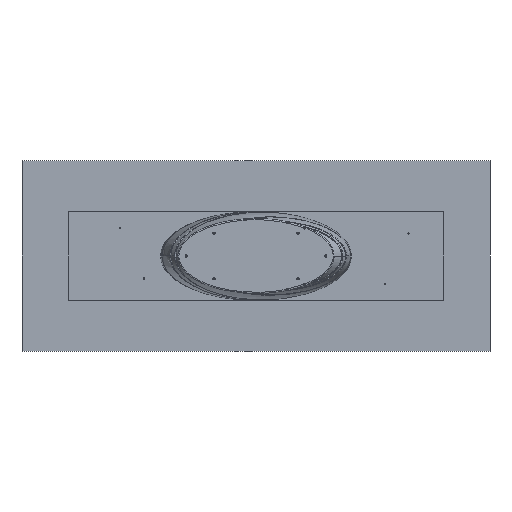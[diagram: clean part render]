
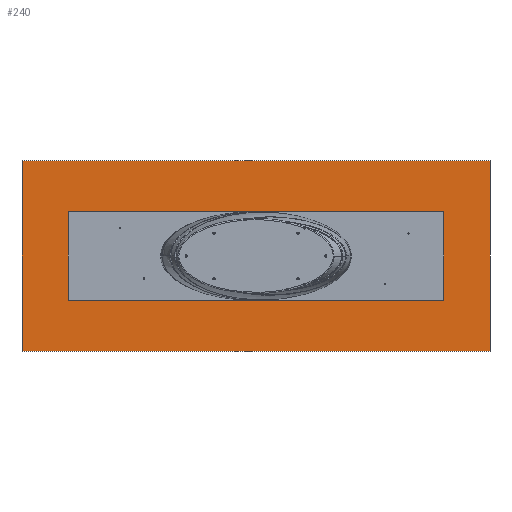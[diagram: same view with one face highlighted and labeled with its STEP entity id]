
A CAD part, front view. The second image highlights one B-rep face of the part: STEP entity #240.
In plain terms, the highlighted planar face has unit normal (0, -1, 0).
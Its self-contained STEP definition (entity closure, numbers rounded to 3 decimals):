
#20 = LINE ( 'NONE', #22800, #10547 ) ;
#240 = ADVANCED_FACE ( 'NONE', ( #11118 ), #27411, .T. ) ;
#718 = EDGE_CURVE ( 'NONE', #28410, #6307, #20, .T. ) ;
#1633 = VERTEX_POINT ( 'NONE', #35571 ) ;
#2216 = EDGE_CURVE ( 'NONE', #6307, #24463, #5397, .T. ) ;
#3402 = DIRECTION ( 'NONE',  ( 0., 0., 1. ) ) ;
#3589 = LINE ( 'NONE', #35166, #20632 ) ;
#3954 = EDGE_CURVE ( 'NONE', #1633, #28410, #3589, .T. ) ;
#4421 = CARTESIAN_POINT ( 'NONE',  ( 1475., 50., -600. ) ) ;
#5397 = LINE ( 'NONE', #36793, #24947 ) ;
#6307 = VERTEX_POINT ( 'NONE', #4421 ) ;
#6929 = DIRECTION ( 'NONE',  ( 0., 0., -1. ) ) ;
#9557 = DIRECTION ( 'NONE',  ( 1., 0., 0. ) ) ;
#9758 = EDGE_CURVE ( 'NONE', #24463, #1633, #23192, .T. ) ;
#10547 = VECTOR ( 'NONE', #6929, 1000. ) ;
#10750 = DIRECTION ( 'NONE',  ( 0., -1., 0. ) ) ;
#11118 = FACE_OUTER_BOUND ( 'NONE', #30878, .T. ) ;
#13319 = ORIENTED_EDGE ( 'NONE', *, *, #2216, .F. ) ;
#13552 = DIRECTION ( 'NONE',  ( 0., 0., -1. ) ) ;
#13622 = DIRECTION ( 'NONE',  ( -1., 0., 0. ) ) ;
#14082 = CARTESIAN_POINT ( 'NONE',  ( -1475., 50., -600. ) ) ;
#14218 = VECTOR ( 'NONE', #3402, 1000. ) ;
#15134 = ORIENTED_EDGE ( 'NONE', *, *, #718, .F. ) ;
#20632 = VECTOR ( 'NONE', #9557, 1000. ) ;
#21016 = CARTESIAN_POINT ( 'NONE',  ( 1475., 50., 600. ) ) ;
#22800 = CARTESIAN_POINT ( 'NONE',  ( 1475., 50., 600. ) ) ;
#23192 = LINE ( 'NONE', #32188, #14218 ) ;
#24463 = VERTEX_POINT ( 'NONE', #14082 ) ;
#24947 = VECTOR ( 'NONE', #13622, 1000. ) ;
#26663 = AXIS2_PLACEMENT_3D ( 'NONE', #33930, #10750, #13552 ) ;
#27411 = PLANE ( 'NONE',  #26663 ) ;
#28410 = VERTEX_POINT ( 'NONE', #21016 ) ;
#29413 = ORIENTED_EDGE ( 'NONE', *, *, #9758, .F. ) ;
#30878 = EDGE_LOOP ( 'NONE', ( #15134, #35641, #29413, #13319 ) ) ;
#32188 = CARTESIAN_POINT ( 'NONE',  ( -1475., 50., 600. ) ) ;
#33930 = CARTESIAN_POINT ( 'NONE',  ( 0., 50., 0. ) ) ;
#35166 = CARTESIAN_POINT ( 'NONE',  ( -1475., 50., 600. ) ) ;
#35571 = CARTESIAN_POINT ( 'NONE',  ( -1475., 50., 600. ) ) ;
#35641 = ORIENTED_EDGE ( 'NONE', *, *, #3954, .F. ) ;
#36793 = CARTESIAN_POINT ( 'NONE',  ( -1475., 50., -600. ) ) ;
